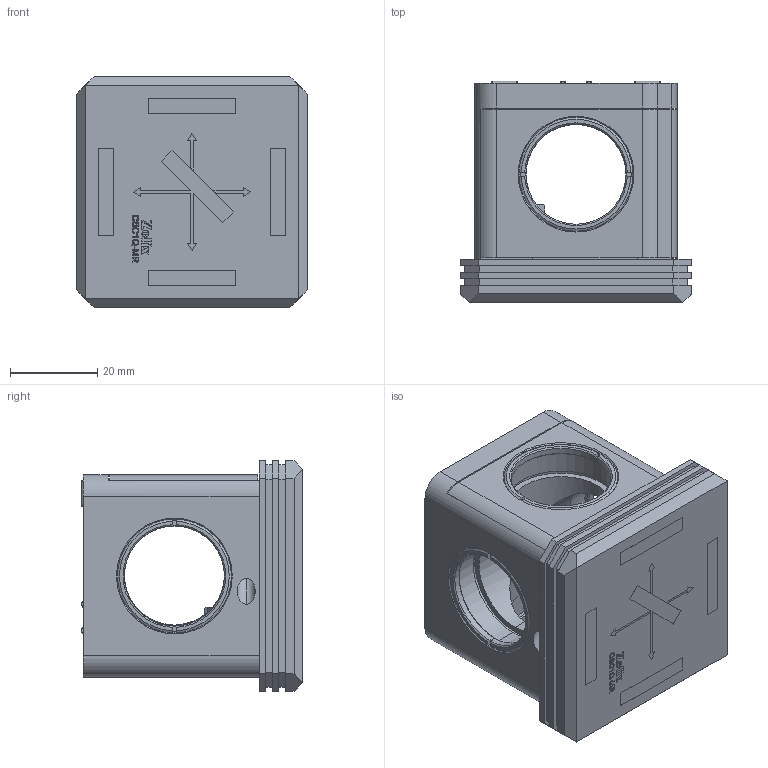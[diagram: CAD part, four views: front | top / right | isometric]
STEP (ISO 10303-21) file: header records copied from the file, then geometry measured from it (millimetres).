
FILE_DESCRIPTION (( 'STEP AP203' ), '1' );
FILE_NAME ('CSC1Q-MR-A.STEP', '2024-03-28T03:20:29', ( '' ), ( '' ), 'SwSTEP 2.0', 'SolidWorks 2021', '' );
FILE_SCHEMA (( 'CONFIG_CONTROL_DESIGN' ));
Length unit declared in the file: millimetre
Products named in the file (1): CSC1Q-MR-A
Bounding box: 53 x 50.9 x 53 mm (x, y, z)
Surface area: 25164.9 mm2 (no closed solid volume)
Topology: 0 solids, 29 shells, 409 faces, 1661 edges, 1272 vertices
Faces by surface type: plane 236, cylinder 85, cone 72, torus 10, bspline 6
Entity records: 19827 total; most frequent: CARTESIAN_POINT 6315, DIRECTION 2679, ORIENTED_EDGE 2487, EDGE_CURVE 1655, VERTEX_POINT 1272, VECTOR 1095, LINE 1095, AXIS2_PLACEMENT_3D 792
